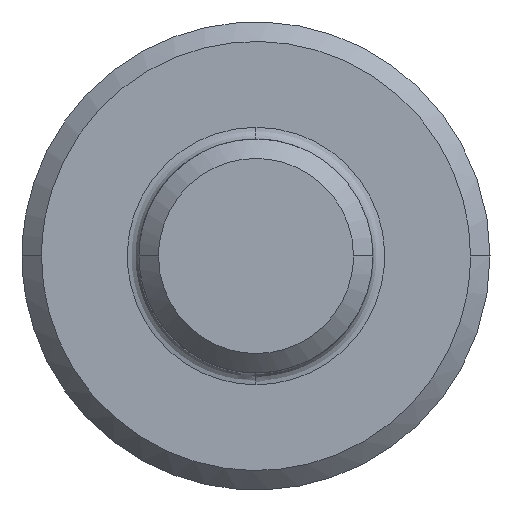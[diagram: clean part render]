
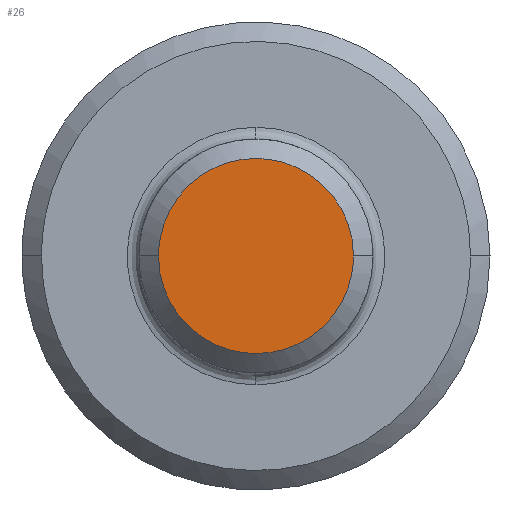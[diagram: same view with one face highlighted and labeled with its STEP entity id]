
A CAD part, left-side view. The second image highlights one B-rep face of the part: STEP entity #26.
In plain terms, the highlighted planar face has unit normal (-1, 0, 0).
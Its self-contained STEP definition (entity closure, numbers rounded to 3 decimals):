
#26=ADVANCED_FACE('',(#48),#646,.T.);
#48=FACE_OUTER_BOUND('',#70,.T.);
#70=EDGE_LOOP('',(#94,#95));
#94=ORIENTED_EDGE('',*,*,#510,.T.);
#95=ORIENTED_EDGE('',*,*,#511,.T.);
#188=B_SPLINE_CURVE_WITH_KNOTS('',1,(#1316,#1317),.UNSPECIFIED.,.F.,.F.,
(2,2),(-4.142,-1.),.UNSPECIFIED.);
#279=B_SPLINE_CURVE_WITH_KNOTS('',1,(#1678,#1679),.UNSPECIFIED.,.F.,.F.,
(2,2),(-8.283,-5.142),.UNSPECIFIED.);
#280=PCURVE('',#646,#372);
#281=PCURVE('',#646,#373);
#283=PCURVE('',#628,#375);
#371=PCURVE('',#645,#463);
#372=DEFINITIONAL_REPRESENTATION('',(#557),#1681);
#373=DEFINITIONAL_REPRESENTATION('',(#559),#1681);
#375=DEFINITIONAL_REPRESENTATION('',(#188),#1681);
#463=DEFINITIONAL_REPRESENTATION('',(#279),#1681);
#464=SURFACE_CURVE('',#556,(#280,#371),.PCURVE_S1.);
#465=SURFACE_CURVE('',#558,(#281,#283),.PCURVE_S1.);
#510=EDGE_CURVE('',#600,#603,#464,.T.);
#511=EDGE_CURVE('',#603,#600,#465,.T.);
#556=(
BOUNDED_CURVE()
B_SPLINE_CURVE(2,(#1292,#1293,#1294,#1295,#1296),.UNSPECIFIED.,.F.,.F.)
B_SPLINE_CURVE_WITH_KNOTS((3,2,3),(-8.283,-6.712,-5.142),
 .UNSPECIFIED.)
CURVE()
GEOMETRIC_REPRESENTATION_ITEM()
RATIONAL_B_SPLINE_CURVE((1.,0.707,1.,0.707,1.))
REPRESENTATION_ITEM('')
);
#557=(
BOUNDED_CURVE()
B_SPLINE_CURVE(2,(#1297,#1298,#1299,#1300,#1301),.UNSPECIFIED.,.F.,.F.)
B_SPLINE_CURVE_WITH_KNOTS((3,2,3),(-8.283,-6.712,-5.142),
 .UNSPECIFIED.)
CURVE()
GEOMETRIC_REPRESENTATION_ITEM()
RATIONAL_B_SPLINE_CURVE((1.,0.707,1.,0.707,1.))
REPRESENTATION_ITEM('')
);
#558=(
BOUNDED_CURVE()
B_SPLINE_CURVE(2,(#1302,#1303,#1304,#1305,#1306),.UNSPECIFIED.,.F.,.F.)
B_SPLINE_CURVE_WITH_KNOTS((3,2,3),(-4.142,-2.571,-1.),
 .UNSPECIFIED.)
CURVE()
GEOMETRIC_REPRESENTATION_ITEM()
RATIONAL_B_SPLINE_CURVE((1.,0.707,1.,0.707,1.))
REPRESENTATION_ITEM('')
);
#559=(
BOUNDED_CURVE()
B_SPLINE_CURVE(2,(#1307,#1308,#1309,#1310,#1311),.UNSPECIFIED.,.F.,.F.)
B_SPLINE_CURVE_WITH_KNOTS((3,2,3),(-4.142,-2.571,-1.),
 .UNSPECIFIED.)
CURVE()
GEOMETRIC_REPRESENTATION_ITEM()
RATIONAL_B_SPLINE_CURVE((1.,0.707,1.,0.707,1.))
REPRESENTATION_ITEM('')
);
#600=VERTEX_POINT('',#1264);
#603=VERTEX_POINT('',#1267);
#628=(
BOUNDED_SURFACE()
B_SPLINE_SURFACE(1,2,((#685,#686,#687,#688,#689,#690,#691,#692,#693),(#694,
#695,#696,#697,#698,#699,#700,#701,#702)),.UNSPECIFIED.,.F.,.F.,.F.)
B_SPLINE_SURFACE_WITH_KNOTS((2,2),(3,2,2,2,3),(0.,1.),(0.,1.571,
3.142,4.712,6.283),.UNSPECIFIED.)
GEOMETRIC_REPRESENTATION_ITEM()
RATIONAL_B_SPLINE_SURFACE(((1.,0.707,1.,0.707,1.,
0.707,1.,0.707,1.),(1.,0.707,1.,0.707,
1.,0.707,1.,0.707,1.)))
REPRESENTATION_ITEM('')
SURFACE()
);
#645=(
BOUNDED_SURFACE()
B_SPLINE_SURFACE(1,2,((#1246,#1247,#1248,#1249,#1250,#1251,#1252,#1253,#1254),
(#1255,#1256,#1257,#1258,#1259,#1260,#1261,#1262,#1263)),.UNSPECIFIED.,.F.,
 .F.,.F.)
B_SPLINE_SURFACE_WITH_KNOTS((2,2),(3,2,2,2,3),(0.,1.),(0.,1.571,
3.142,4.712,6.283),.UNSPECIFIED.)
GEOMETRIC_REPRESENTATION_ITEM()
RATIONAL_B_SPLINE_SURFACE(((1.,0.707,1.,0.707,1.,
0.707,1.,0.707,1.),(1.,0.707,1.,0.707,
1.,0.707,1.,0.707,1.)))
REPRESENTATION_ITEM('')
SURFACE()
);
#646=PLANE('',#670);
#670=AXIS2_PLACEMENT_3D('',#684,#677,$);
#677=DIRECTION('',(-1.,0.,0.));
#684=CARTESIAN_POINT('',(686.,282.5,32.5));
#685=CARTESIAN_POINT('',(683.5,285.,30.));
#686=CARTESIAN_POINT('',(683.5,285.,30.));
#687=CARTESIAN_POINT('',(683.5,285.,30.));
#688=CARTESIAN_POINT('',(683.5,285.,30.));
#689=CARTESIAN_POINT('',(683.5,285.,30.));
#690=CARTESIAN_POINT('',(683.5,285.,30.));
#691=CARTESIAN_POINT('',(683.5,285.,30.));
#692=CARTESIAN_POINT('',(683.5,285.,30.));
#693=CARTESIAN_POINT('',(683.5,285.,30.));
#694=CARTESIAN_POINT('',(687.743,289.243,30.));
#695=CARTESIAN_POINT('',(687.743,289.243,25.757));
#696=CARTESIAN_POINT('',(687.743,285.,25.757));
#697=CARTESIAN_POINT('',(687.743,280.757,25.757));
#698=CARTESIAN_POINT('',(687.743,280.757,30.));
#699=CARTESIAN_POINT('',(687.743,280.757,34.243));
#700=CARTESIAN_POINT('',(687.743,285.,34.243));
#701=CARTESIAN_POINT('',(687.743,289.243,34.243));
#702=CARTESIAN_POINT('',(687.743,289.243,30.));
#1246=CARTESIAN_POINT('',(683.5,285.,30.));
#1247=CARTESIAN_POINT('',(683.5,285.,30.));
#1248=CARTESIAN_POINT('',(683.5,285.,30.));
#1249=CARTESIAN_POINT('',(683.5,285.,30.));
#1250=CARTESIAN_POINT('',(683.5,285.,30.));
#1251=CARTESIAN_POINT('',(683.5,285.,30.));
#1252=CARTESIAN_POINT('',(683.5,285.,30.));
#1253=CARTESIAN_POINT('',(683.5,285.,30.));
#1254=CARTESIAN_POINT('',(683.5,285.,30.));
#1255=CARTESIAN_POINT('',(687.743,289.243,30.));
#1256=CARTESIAN_POINT('',(687.743,289.243,25.757));
#1257=CARTESIAN_POINT('',(687.743,285.,25.757));
#1258=CARTESIAN_POINT('',(687.743,280.757,25.757));
#1259=CARTESIAN_POINT('',(687.743,280.757,30.));
#1260=CARTESIAN_POINT('',(687.743,280.757,34.243));
#1261=CARTESIAN_POINT('',(687.743,285.,34.243));
#1262=CARTESIAN_POINT('',(687.743,289.243,34.243));
#1263=CARTESIAN_POINT('',(687.743,289.243,30.));
#1264=CARTESIAN_POINT('',(686.,287.5,30.));
#1267=CARTESIAN_POINT('',(686.,282.5,30.));
#1292=CARTESIAN_POINT('',(686.,287.5,30.));
#1293=CARTESIAN_POINT('',(686.,287.5,27.5));
#1294=CARTESIAN_POINT('',(686.,285.,27.5));
#1295=CARTESIAN_POINT('',(686.,282.5,27.5));
#1296=CARTESIAN_POINT('',(686.,282.5,30.));
#1297=CARTESIAN_POINT('',(1.,0.5));
#1298=CARTESIAN_POINT('',(1.,1.));
#1299=CARTESIAN_POINT('',(0.5,1.));
#1300=CARTESIAN_POINT('',(0.,1.));
#1301=CARTESIAN_POINT('',(0.,0.5));
#1302=CARTESIAN_POINT('',(686.,282.5,30.));
#1303=CARTESIAN_POINT('',(686.,282.5,32.5));
#1304=CARTESIAN_POINT('',(686.,285.,32.5));
#1305=CARTESIAN_POINT('',(686.,287.5,32.5));
#1306=CARTESIAN_POINT('',(686.,287.5,30.));
#1307=CARTESIAN_POINT('',(0.,0.5));
#1308=CARTESIAN_POINT('',(0.,0.));
#1309=CARTESIAN_POINT('',(0.5,0.));
#1310=CARTESIAN_POINT('',(1.,0.));
#1311=CARTESIAN_POINT('',(1.,0.5));
#1316=CARTESIAN_POINT('',(0.589,3.142));
#1317=CARTESIAN_POINT('',(0.589,6.283));
#1678=CARTESIAN_POINT('',(0.589,0.));
#1679=CARTESIAN_POINT('',(0.589,3.142));
#1681=(
GEOMETRIC_REPRESENTATION_CONTEXT(2)
PARAMETRIC_REPRESENTATION_CONTEXT()
REPRESENTATION_CONTEXT('pspace','')
);
